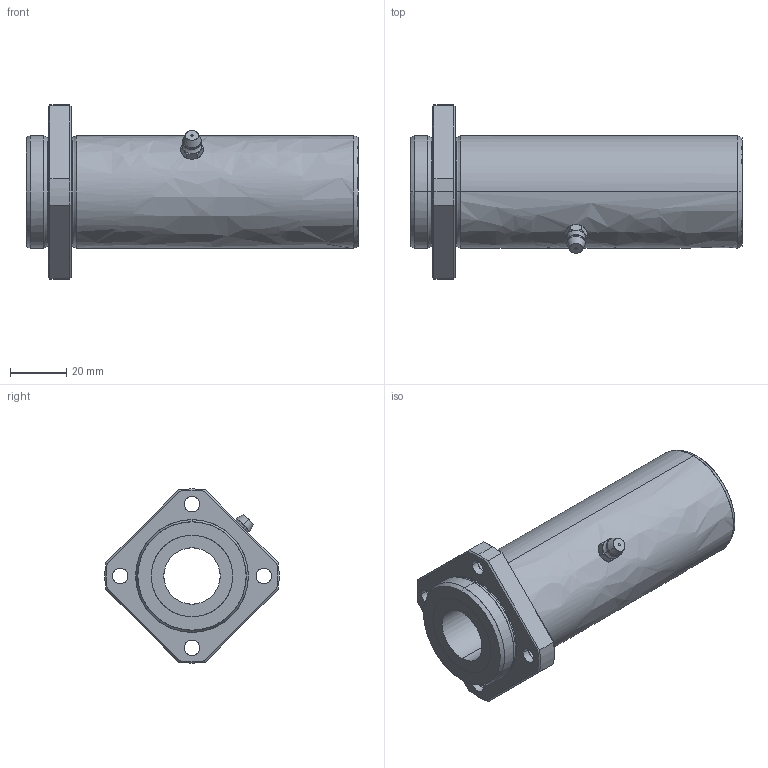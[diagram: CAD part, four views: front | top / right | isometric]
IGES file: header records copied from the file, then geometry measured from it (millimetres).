
Global section: file name: No Iges File Name specified; native system: AutoDesk Inventor R10; preprocessor: AutoDesk Inventor Iges Exporter R10; author: No Author specified; organization: No Organization specified; date: 20101211.163721; units: millimetre
Bounding box: 118 x 61.92 x 62 mm (x, y, z)
Surface area: 27593.7 mm2 (no closed solid volume)
Topology: 0 solids, 0 shells, 116 faces, 704 edges, 702 vertices
Faces by surface type: bspline 116
